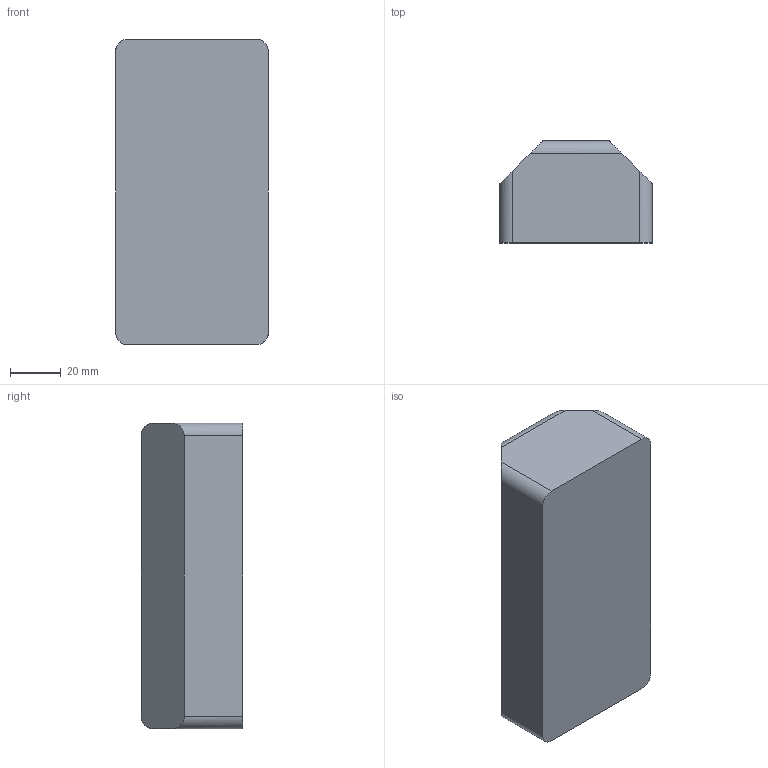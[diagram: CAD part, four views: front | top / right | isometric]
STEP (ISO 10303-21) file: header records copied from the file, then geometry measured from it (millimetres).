
FILE_DESCRIPTION (( 'STEP AP203' ), '1' );
FILE_NAME ('0003315 EZ-0072 60x120.STEP', '2022-01-31T16:42:48', ( '' ), ( '' ), 'SwSTEP 2.0', 'SolidWorks 2021', '' );
FILE_SCHEMA (( 'CONFIG_CONTROL_DESIGN' ));
Length unit declared in the file: millimetre
Products named in the file (1): 0003315 EZ-0072 60x120
Bounding box: 60 x 40 x 120 mm (x, y, z)
Volume: 248979.7 mm3; surface area: 27853 mm2
Topology: 4 solids, 4 shells, 102 faces, 232 edges, 140 vertices
Faces by surface type: cylinder 38, plane 34, cone 20, torus 8, sphere 2
Entity records: 2859 total; most frequent: DIRECTION 518, CARTESIAN_POINT 487, ORIENTED_EDGE 440, EDGE_CURVE 220, AXIS2_PLACEMENT_3D 203, VERTEX_POINT 140, EDGE_LOOP 118, VECTOR 112
